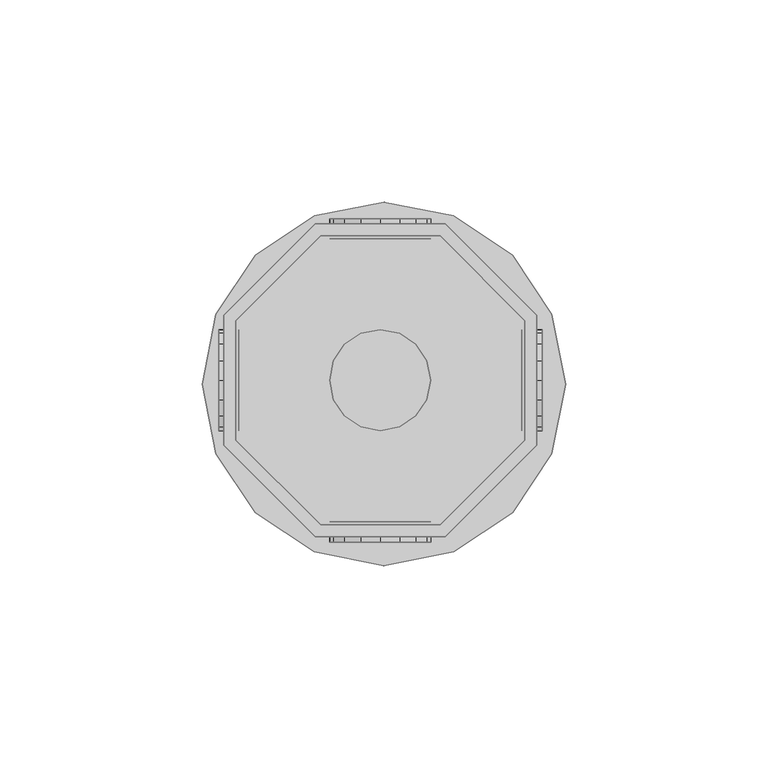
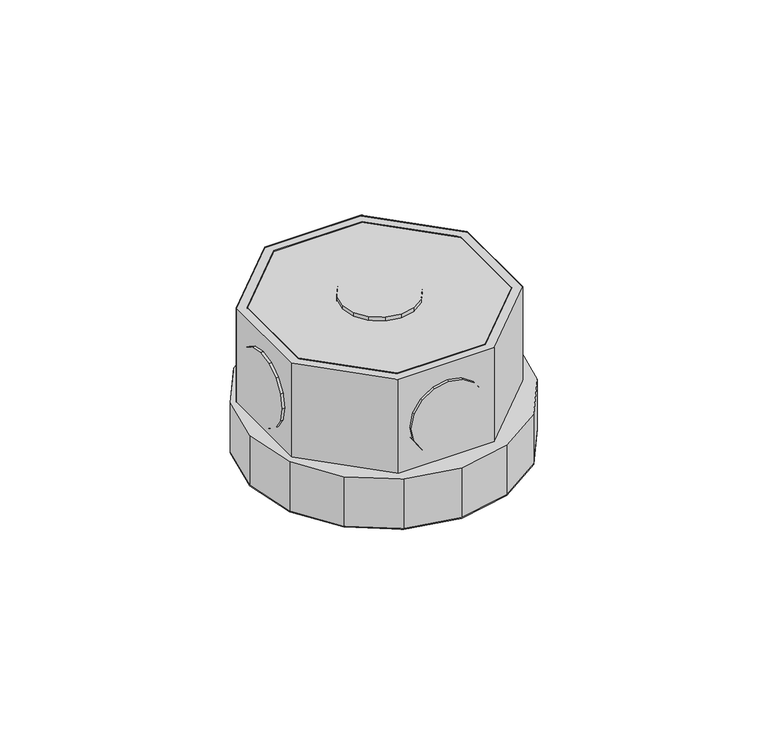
"""IFC4 building model written with IfcOpenShell, lengths in millimetres: light fixture geometry,  213720 :  213720."""

from ifc_helpers import new_model, si_unit, origin, place, context, project, spatial, triangles, source, transform, mapped, element, save


def light_fixture_08307859(model_context):
    return source(origin(), model_context, "Body", "Tessellation", [
        triangles([(2614.9999763, 19124.7000916, 2924.5999741), (2585.4000389, 19124.7000916, 2975.400071), (2585.4000389, 19124.7000916, 2924.5999741), (2614.9999763, 19124.7000916, 2975.400071), (2616.1999031, 19050.1999878, 2924.5999741), (2584.1001183, 19050.1999878, 2975.400071), (2584.1001183, 19050.1999878, 2924.5999741), (2616.1999031, 19050.1999878, 2975.400071), (2564.3998672, 19103.7002106, 2975.400071), (2564.3998672, 19103.7002106, 2924.5999741), (2638.899971, 19072.899765, 2924.5999741), (2638.899971, 19072.899765, 2975.400071), (2564.3998672, 19074.0996918, 2975.400071), (2564.3998672, 19074.0996918, 2924.5999741), (2638.899971, 19105.0001312, 2924.5999741), (2638.899971, 19105.0001312, 2975.400071), (2585.4000389, 19053.1998047, 2975.400071), (2585.4000389, 19053.1998047, 2924.5999741), (2616.1999031, 19127.6999084, 2924.5999741), (2616.1999031, 19127.6999084, 2975.400071), (2614.9999763, 19053.1998047, 2924.5999741), (2614.9999763, 19053.1998047, 2975.400071), (2584.1001183, 19127.6999084, 2975.400071), (2584.1001183, 19127.6999084, 2924.5999741), (2635.8998634, 19074.0996918, 2924.5999741), (2635.8998634, 19074.0996918, 2975.400071), (2561.4000504, 19105.0001312, 2975.400071), (2561.4000504, 19105.0001312, 2924.5999741), (2561.4000504, 19072.899765, 2975.400071), (2635.8998634, 19103.7002106, 2975.400071), (2635.8998634, 19103.7002106, 2924.5999741), (2561.4000504, 19072.899765, 2924.5999741), (2564.3998672, 19074.0996918, 2972.3999634), (2585.4000389, 19053.1998047, 2972.3999634), (2614.9999763, 19053.1998047, 2972.3999634), (2635.8998634, 19074.0996918, 2972.3999634), (2635.8998634, 19103.7002106, 2972.3999634), (2614.9999763, 19124.7000916, 2972.3999634), (2585.4000389, 19124.7000916, 2972.3999634), (2564.3998672, 19103.7002106, 2972.3999634), (2561.4000504, 19105.0001312, 2942.4000504), (2584.1001183, 19127.6999084, 2942.4000504), (2616.1999031, 19127.6999084, 2942.4000504), (2638.899971, 19105.0001312, 2942.4000504), (2638.899971, 19072.899765, 2942.4000504), (2616.1999031, 19050.1999878, 2942.4000504), (2584.1001183, 19050.1999878, 2942.4000504), (2561.4000504, 19072.899765, 2942.4000504), (2583.8001366, 19046.5002136, 2942.4000504), (2559.4998756, 19070.7998932, 2942.4000504), (2569.199865, 19056.1996216, 2942.4000504), (2556.1000832, 19088.0000061, 2942.4000504), (2559.4998756, 19105.3001129, 2942.4000504), (2569.199865, 19119.9003845, 2942.4000504), (2583.8001366, 19129.5997925, 2942.4000504), (2601.0999527, 19132.999585, 2942.4000504), (2618.3000656, 19129.5997925, 2942.4000504), (2642.6000359, 19105.3001129, 2942.4000504), (2632.9000465, 19119.9003845, 2942.4000504), (2601.0999527, 19043.0004272, 2942.4000504), (2618.3000656, 19046.5002136, 2942.4000504), (2632.9000465, 19056.1996216, 2942.4000504), (2642.6000359, 19070.7998932, 2942.4000504), (2646.1001129, 19088.0000061, 2942.4000504), (2559.4998756, 19070.7998932, 2924.5999741), (2583.8001366, 19046.5002136, 2924.5999741), (2569.199865, 19056.1996216, 2924.5999741), (2556.1000832, 19088.0000061, 2924.5999741), (2559.4998756, 19105.3001129, 2924.5999741), (2569.199865, 19119.9003845, 2924.5999741), (2583.8001366, 19129.5997925, 2924.5999741), (2601.0999527, 19132.999585, 2924.5999741), (2618.3000656, 19129.5997925, 2924.5999741), (2642.6000359, 19105.3001129, 2924.5999741), (2632.9000465, 19119.9003845, 2924.5999741), (2601.0999527, 19043.0004272, 2924.5999741), (2618.3000656, 19046.5002136, 2924.5999741), (2632.9000465, 19056.1996216, 2924.5999741), (2642.6000359, 19070.7998932, 2924.5999741), (2646.1001129, 19088.0000061, 2924.5999741), (2588.6001343, 19128.8998352, 2952.6000092), (2595.4000099, 19128.8998352, 2945.9001274), (2591.2999695, 19128.8998352, 2948.5999626), (2587.6998985, 19128.8998352, 2957.4000069), (2600.2000076, 19128.8998352, 2944.8998978), (2588.6001343, 19128.8998352, 2962.2000046), (2605.0000053, 19128.8998352, 2945.9001274), (2591.2999695, 19128.8998352, 2966.2000511), (2609.0000519, 19128.8998352, 2948.5999626), (2595.4000099, 19128.8998352, 2968.8998863), (2611.6998871, 19128.8998352, 2952.6000092), (2600.2000076, 19128.8998352, 2969.900116), (2612.7001167, 19128.8998352, 2957.4000069), (2605.0000053, 19128.8998352, 2968.8998863), (2611.6998871, 19128.8998352, 2962.2000046), (2609.0000519, 19128.8998352, 2966.2000511), (2595.4000099, 19123.9001404, 2945.9001274), (2588.6001343, 19123.9001404, 2952.6000092), (2591.2999695, 19123.9001404, 2948.5999626), (2600.2000076, 19123.9001404, 2944.8998978), (2587.6998985, 19123.9001404, 2957.4000069), (2605.0000053, 19123.9001404, 2945.9001274), (2588.6001343, 19123.9001404, 2962.2000046), (2609.0000519, 19123.9001404, 2948.5999626), (2591.2999695, 19123.9001404, 2966.2000511), (2595.4000099, 19123.9001404, 2968.8998863), (2611.6998871, 19123.9001404, 2952.6000092), (2600.2000076, 19123.9001404, 2969.900116), (2612.7001167, 19123.9001404, 2957.4000069), (2605.0000053, 19123.9001404, 2968.8998863), (2611.6998871, 19123.9001404, 2962.2000046), (2609.0000519, 19123.9001404, 2966.2000511), (2588.6001343, 19053.899762, 2952.6000092), (2595.4000099, 19053.899762, 2945.9001274), (2591.2999695, 19053.899762, 2948.5999626), (2587.6998985, 19053.899762, 2957.4000069), (2600.2000076, 19053.899762, 2944.8998978), (2588.6001343, 19053.899762, 2962.2000046), (2605.0000053, 19053.899762, 2945.9001274), (2591.2999695, 19053.899762, 2966.2000511), (2609.0000519, 19053.899762, 2948.5999626), (2595.4000099, 19053.899762, 2968.8998863), (2611.6998871, 19053.899762, 2952.6000092), (2600.2000076, 19053.899762, 2969.900116), (2612.7001167, 19053.899762, 2957.4000069), (2605.0000053, 19053.899762, 2968.8998863), (2611.6998871, 19053.899762, 2962.2000046), (2609.0000519, 19053.899762, 2966.2000511), (2595.4000099, 19048.9000671, 2945.9001274), (2588.6001343, 19048.9000671, 2952.6000092), (2591.2999695, 19048.9000671, 2948.5999626), (2600.2000076, 19048.9000671, 2944.8998978), (2587.6998985, 19048.9000671, 2957.4000069), (2605.0000053, 19048.9000671, 2945.9001274), (2588.6001343, 19048.9000671, 2962.2000046), (2609.0000519, 19048.9000671, 2948.5999626), (2591.2999695, 19048.9000671, 2966.2000511), (2595.4000099, 19048.9000671, 2968.8998863), (2611.6998871, 19048.9000671, 2952.6000092), (2600.2000076, 19048.9000671, 2969.900116), (2612.7001167, 19048.9000671, 2957.4000069), (2605.0000053, 19048.9000671, 2968.8998863), (2611.6998871, 19048.9000671, 2962.2000046), (2609.0000519, 19048.9000671, 2966.2000511), (2565.2001091, 19084.1002441, 2945.9001274), (2565.2001091, 19077.3994904, 2952.6000092), (2565.2001091, 19080.1004883, 2948.5999626), (2565.2001091, 19088.8999512, 2944.8998978), (2565.2001091, 19076.3995514, 2957.4000069), (2565.2001091, 19093.6996582, 2945.9001274), (2565.2001091, 19077.3994904, 2962.2000046), (2565.2001091, 19097.8005707, 2948.5999626), (2565.2001091, 19080.1004883, 2966.2000511), (2565.2001091, 19084.1002441, 2968.8998863), (2565.2001091, 19100.5004059, 2952.6000092), (2565.2001091, 19088.8999512, 2969.900116), (2565.2001091, 19101.400351, 2957.4000069), (2565.2001091, 19093.6996582, 2968.8998863), (2565.2001091, 19100.5004059, 2962.2000046), (2565.2001091, 19097.8005707, 2966.2000511), (2560.2001236, 19077.3994904, 2952.6000092), (2560.2001236, 19084.1002441, 2945.9001274), (2560.2001236, 19080.1004883, 2948.5999626), (2560.2001236, 19076.3995514, 2957.4000069), (2560.2001236, 19088.8999512, 2944.8998978), (2560.2001236, 19077.3994904, 2962.2000046), (2560.2001236, 19093.6996582, 2945.9001274), (2560.2001236, 19080.1004883, 2966.2000511), (2560.2001236, 19097.8005707, 2948.5999626), (2560.2001236, 19084.1002441, 2968.8998863), (2560.2001236, 19100.5004059, 2952.6000092), (2560.2001236, 19088.8999512, 2969.900116), (2560.2001236, 19101.400351, 2957.4000069), (2560.2001236, 19093.6996582, 2968.8998863), (2560.2001236, 19100.5004059, 2962.2000046), (2560.2001236, 19097.8005707, 2966.2000511), (2640.1998917, 19084.1002441, 2945.9001274), (2640.1998917, 19077.3994904, 2952.6000092), (2640.1998917, 19080.1004883, 2948.5999626), (2640.1998917, 19088.8999512, 2944.8998978), (2640.1998917, 19076.3995514, 2957.4000069), (2640.1998917, 19093.6996582, 2945.9001274), (2640.1998917, 19077.3994904, 2962.2000046), (2640.1998917, 19097.8005707, 2948.5999626), (2640.1998917, 19080.1004883, 2966.2000511), (2640.1998917, 19084.1002441, 2968.8998863), (2640.1998917, 19100.5004059, 2952.6000092), (2640.1998917, 19088.8999512, 2969.900116), (2640.1998917, 19101.400351, 2957.4000069), (2640.1998917, 19093.6996582, 2968.8998863), (2640.1998917, 19100.5004059, 2962.2000046), (2640.1998917, 19097.8005707, 2966.2000511), (2635.1999062, 19077.3994904, 2952.6000092), (2635.1999062, 19084.1002441, 2945.9001274), (2635.1999062, 19080.1004883, 2948.5999626), (2635.1999062, 19076.3995514, 2957.4000069), (2635.1999062, 19088.8999512, 2944.8998978), (2635.1999062, 19077.3994904, 2962.2000046), (2635.1999062, 19093.6996582, 2945.9001274), (2635.1999062, 19080.1004883, 2966.2000511), (2635.1999062, 19097.8005707, 2948.5999626), (2635.1999062, 19084.1002441, 2968.8998863), (2635.1999062, 19100.5004059, 2952.6000092), (2635.1999062, 19088.8999512, 2969.900116), (2635.1999062, 19101.400351, 2957.4000069), (2635.1999062, 19093.6996582, 2968.8998863), (2635.1999062, 19100.5004059, 2962.2000046), (2635.1999062, 19097.8005707, 2966.2000511), (2595.4000099, 19077.3994904, 2976.9999733), (2588.6001343, 19084.1002441, 2976.9999733), (2591.2999695, 19080.1004883, 2976.9999733), (2587.6998985, 19088.8999512, 2976.9999733), (2600.2000076, 19076.3995514, 2976.9999733), (2588.6001343, 19093.6996582, 2976.9999733), (2605.0000053, 19077.3994904, 2976.9999733), (2591.2999695, 19097.8005707, 2976.9999733), (2609.0000519, 19080.1004883, 2976.9999733), (2595.4000099, 19100.5004059, 2976.9999733), (2611.6998871, 19084.1002441, 2976.9999733), (2600.2000076, 19101.400351, 2976.9999733), (2612.7001167, 19088.8999512, 2976.9999733), (2605.0000053, 19100.5004059, 2976.9999733), (2611.6998871, 19093.6996582, 2976.9999733), (2609.0000519, 19097.8005707, 2976.9999733), (2588.6001343, 19084.1002441, 2971.9999878), (2595.4000099, 19077.3994904, 2971.9999878), (2591.2999695, 19080.1004883, 2971.9999878), (2587.6998985, 19088.8999512, 2971.9999878), (2600.2000076, 19076.3995514, 2971.9999878), (2588.6001343, 19093.6996582, 2971.9999878), (2605.0000053, 19077.3994904, 2971.9999878), (2591.2999695, 19097.8005707, 2971.9999878), (2609.0000519, 19080.1004883, 2971.9999878), (2595.4000099, 19100.5004059, 2971.9999878), (2611.6998871, 19084.1002441, 2971.9999878), (2600.2000076, 19101.400351, 2971.9999878), (2612.7001167, 19088.8999512, 2971.9999878), (2605.0000053, 19100.5004059, 2971.9999878), (2611.6998871, 19093.6996582, 2971.9999878), (2609.0000519, 19097.8005707, 2971.9999878)], [[1, 2, 3], [2, 1, 4], [5, 6, 7], [6, 5, 8], [3, 9, 10], [9, 3, 2], [11, 8, 5], [8, 11, 12], [10, 13, 14], [13, 10, 9], [15, 12, 11], [12, 15, 16], [14, 17, 18], [17, 14, 13], [19, 16, 15], [16, 19, 20], [17, 21, 18], [21, 17, 22], [23, 19, 24], [19, 23, 20], [22, 25, 21], [25, 22, 26], [27, 24, 28], [24, 27, 23], [6, 13, 29], [29, 13, 27], [27, 13, 9], [27, 9, 23], [23, 9, 2], [23, 2, 4], [23, 4, 20], [20, 4, 30], [8, 17, 6], [6, 17, 13], [17, 8, 22], [12, 22, 8], [22, 12, 26], [30, 26, 12], [16, 30, 12], [20, 30, 16], [30, 1, 31], [1, 30, 4], [6, 32, 7], [32, 6, 29], [32, 14, 7], [28, 14, 32], [14, 28, 10], [24, 10, 28], [10, 24, 3], [1, 3, 24], [19, 1, 24], [31, 1, 19], [7, 18, 5], [14, 18, 7], [5, 18, 21], [5, 21, 11], [11, 21, 25], [11, 25, 31], [11, 31, 15], [15, 31, 19], [26, 31, 25], [31, 26, 30], [29, 28, 32], [28, 29, 27], [17, 33, 34], [33, 17, 13], [35, 17, 34], [17, 35, 22], [36, 22, 35], [22, 36, 26], [37, 26, 36], [26, 37, 30], [38, 30, 37], [30, 38, 4], [2, 38, 39], [38, 2, 4], [17, 9, 13], [9, 17, 22], [9, 22, 2], [2, 22, 26], [2, 26, 4], [4, 26, 30], [13, 40, 33], [40, 13, 9], [40, 34, 33], [35, 34, 40], [35, 40, 39], [35, 39, 36], [36, 39, 38], [36, 38, 37], [9, 39, 40], [39, 9, 2], [24, 41, 28], [41, 24, 42], [19, 42, 24], [42, 19, 43], [44, 19, 15], [19, 44, 43], [45, 15, 11], [15, 45, 44], [46, 11, 5], [11, 46, 45], [47, 5, 7], [5, 47, 46], [32, 47, 7], [47, 32, 48], [28, 48, 32], [48, 28, 41], [49, 50, 51], [48, 50, 49], [50, 48, 52], [41, 52, 48], [52, 41, 53], [53, 41, 54], [42, 54, 41], [54, 42, 55], [55, 42, 43], [55, 43, 56], [56, 43, 57], [57, 43, 44], [57, 44, 58], [57, 58, 59], [47, 49, 60], [49, 47, 48], [47, 60, 46], [61, 46, 60], [46, 61, 62], [46, 62, 45], [45, 62, 63], [44, 45, 63], [44, 63, 64], [44, 64, 58], [65, 66, 67], [66, 65, 32], [68, 32, 65], [32, 68, 28], [28, 68, 69], [70, 28, 69], [28, 70, 24], [71, 24, 70], [19, 24, 71], [19, 71, 72], [73, 19, 72], [19, 73, 15], [74, 15, 73], [74, 73, 75], [76, 66, 7], [32, 7, 66], [5, 76, 7], [76, 5, 77], [77, 5, 78], [11, 78, 5], [78, 11, 79], [79, 11, 15], [79, 15, 80], [80, 15, 74], [57, 75, 73], [75, 57, 59], [56, 73, 72], [73, 56, 57], [55, 72, 71], [72, 55, 56], [54, 71, 70], [71, 54, 55], [53, 70, 69], [70, 53, 54], [52, 69, 68], [69, 52, 53], [50, 68, 65], [68, 50, 52], [51, 65, 67], [65, 51, 50], [66, 51, 67], [51, 66, 49], [76, 49, 66], [49, 76, 60], [77, 60, 76], [60, 77, 61], [78, 61, 77], [61, 78, 62], [79, 62, 78], [62, 79, 63], [80, 63, 79], [63, 80, 64], [75, 58, 74], [58, 75, 59], [74, 64, 80], [64, 74, 58], [81, 82, 83], [82, 81, 84], [85, 82, 84], [85, 84, 86], [87, 85, 86], [87, 86, 88], [87, 88, 89], [89, 88, 90], [89, 90, 91], [91, 90, 92], [91, 92, 93], [93, 92, 94], [93, 94, 95], [95, 94, 96], [97, 98, 99], [98, 97, 100], [101, 98, 100], [101, 100, 102], [103, 101, 102], [103, 102, 104], [103, 104, 105], [105, 104, 106], [106, 104, 107], [106, 107, 108], [108, 107, 109], [108, 109, 110], [110, 109, 111], [110, 111, 112], [87, 104, 102], [104, 87, 89], [85, 102, 100], [102, 85, 87], [82, 100, 97], [100, 82, 85], [83, 97, 99], [97, 83, 82], [98, 83, 99], [83, 98, 81], [101, 81, 98], [81, 101, 84], [103, 84, 101], [84, 103, 86], [105, 86, 103], [86, 105, 88], [106, 88, 105], [88, 106, 90], [108, 90, 106], [90, 108, 92], [110, 92, 108], [92, 110, 94], [112, 94, 110], [94, 112, 96], [95, 112, 111], [112, 95, 96], [93, 111, 109], [111, 93, 95], [89, 107, 104], [107, 89, 91], [91, 109, 107], [109, 91, 93], [113, 114, 115], [114, 113, 116], [117, 114, 116], [117, 116, 118], [119, 117, 118], [119, 118, 120], [119, 120, 121], [121, 120, 122], [121, 122, 123], [123, 122, 124], [123, 124, 125], [125, 124, 126], [125, 126, 127], [127, 126, 128], [129, 130, 131], [130, 129, 132], [133, 130, 132], [133, 132, 134], [135, 133, 134], [135, 134, 136], [135, 136, 137], [137, 136, 138], [138, 136, 139], [138, 139, 140], [140, 139, 141], [140, 141, 142], [142, 141, 143], [142, 143, 144], [119, 136, 134], [136, 119, 121], [117, 134, 132], [134, 117, 119], [114, 132, 129], [132, 114, 117], [115, 129, 131], [129, 115, 114], [130, 115, 131], [115, 130, 113], [133, 113, 130], [113, 133, 116], [135, 116, 133], [116, 135, 118], [137, 118, 135], [118, 137, 120], [138, 120, 137], [120, 138, 122], [140, 122, 138], [122, 140, 124], [142, 124, 140], [124, 142, 126], [144, 126, 142], [126, 144, 128], [127, 144, 143], [144, 127, 128], [125, 143, 141], [143, 125, 127], [121, 139, 136], [139, 121, 123], [123, 141, 139], [141, 123, 125], [145, 146, 147], [146, 145, 148], [149, 146, 148], [149, 148, 150], [151, 149, 150], [151, 150, 152], [151, 152, 153], [153, 152, 154], [154, 152, 155], [154, 155, 156], [156, 155, 157], [156, 157, 158], [158, 157, 159], [158, 159, 160], [161, 162, 163], [162, 161, 164], [165, 162, 164], [165, 164, 166], [167, 165, 166], [167, 166, 168], [169, 167, 168], [169, 168, 170], [169, 170, 171], [171, 170, 172], [171, 172, 173], [173, 172, 174], [173, 174, 175], [175, 174, 176], [158, 176, 174], [176, 158, 160], [156, 174, 172], [174, 156, 158], [154, 172, 170], [172, 154, 156], [153, 170, 168], [170, 153, 154], [151, 168, 166], [168, 151, 153], [149, 166, 164], [166, 149, 151], [146, 164, 161], [164, 146, 149], [147, 161, 163], [161, 147, 146], [162, 147, 163], [147, 162, 145], [165, 145, 162], [145, 165, 148], [167, 148, 165], [148, 167, 150], [169, 150, 167], [150, 169, 152], [171, 152, 169], [152, 171, 155], [173, 155, 171], [155, 173, 157], [176, 159, 175], [159, 176, 160], [175, 157, 173], [157, 175, 159], [177, 178, 179], [178, 177, 180], [181, 178, 180], [181, 180, 182], [183, 181, 182], [183, 182, 184], [183, 184, 185], [185, 184, 186], [186, 184, 187], [186, 187, 188], [188, 187, 189], [188, 189, 190], [190, 189, 191], [190, 191, 192], [193, 194, 195], [194, 193, 196], [197, 194, 196], [197, 196, 198], [199, 197, 198], [199, 198, 200], [201, 199, 200], [201, 200, 202], [201, 202, 203], [203, 202, 204], [203, 204, 205], [205, 204, 206], [205, 206, 207], [207, 206, 208], [190, 208, 206], [208, 190, 192], [188, 206, 204], [206, 188, 190], [186, 204, 202], [204, 186, 188], [185, 202, 200], [202, 185, 186], [183, 200, 198], [200, 183, 185], [181, 198, 196], [198, 181, 183], [178, 196, 193], [196, 178, 181], [179, 193, 195], [193, 179, 178], [194, 179, 195], [179, 194, 177], [197, 177, 194], [177, 197, 180], [199, 180, 197], [180, 199, 182], [201, 182, 199], [182, 201, 184], [203, 184, 201], [184, 203, 187], [205, 187, 203], [187, 205, 189], [208, 191, 207], [191, 208, 192], [207, 189, 205], [189, 207, 191], [209, 210, 211], [212, 210, 209], [212, 209, 213], [214, 212, 213], [214, 213, 215], [216, 214, 215], [216, 215, 217], [216, 217, 218], [218, 217, 219], [218, 219, 220], [220, 219, 221], [220, 221, 222], [222, 221, 223], [222, 223, 224], [225, 226, 227], [226, 225, 228], [229, 226, 228], [229, 228, 230], [231, 229, 230], [231, 230, 232], [231, 232, 233], [233, 232, 234], [233, 234, 235], [235, 234, 236], [235, 236, 237], [237, 236, 238], [237, 238, 239], [239, 238, 240], [222, 240, 238], [240, 222, 224], [220, 238, 236], [238, 220, 222], [218, 236, 234], [236, 218, 220], [216, 234, 232], [234, 216, 218], [214, 232, 230], [232, 214, 216], [212, 230, 228], [230, 212, 214], [210, 228, 225], [228, 210, 212], [211, 225, 227], [225, 211, 210], [226, 211, 227], [211, 226, 209], [229, 209, 226], [209, 229, 213], [231, 213, 229], [213, 231, 215], [233, 215, 231], [215, 233, 217], [235, 217, 233], [217, 235, 219], [237, 219, 235], [219, 237, 221], [240, 223, 239], [223, 240, 224], [239, 221, 237], [221, 239, 223]], closed=False),
    ])


if __name__ == "__main__":
    model = new_model("IFC4")
    model_context = context("Model", 3, world=origin())
    ifc_project = project(units=[si_unit("LENGTHUNIT", "METRE", prefix="MILLI")], contexts=[model_context])
    site = spatial("IfcSite", under=ifc_project)
    building = spatial("IfcBuilding", under=site)
    placement = place(None, origin())
    light_fixture_shape = light_fixture_08307859(model_context)
    element("IfcLightFixture", 1, ObjectType=" 213720 :  213720", at=placement, inside=building, context=model_context, shape_type="MappedRepresentation", body=[
        mapped(light_fixture_shape, transform((0.0, 0.0, 0.0), x_axis=(1.0, 0.0, 0.0), y_axis=(0.0, 1.0, 0.0), z_axis=(0.0, 0.0, 1.0))),
    ])
    save(model, "model.ifc")
